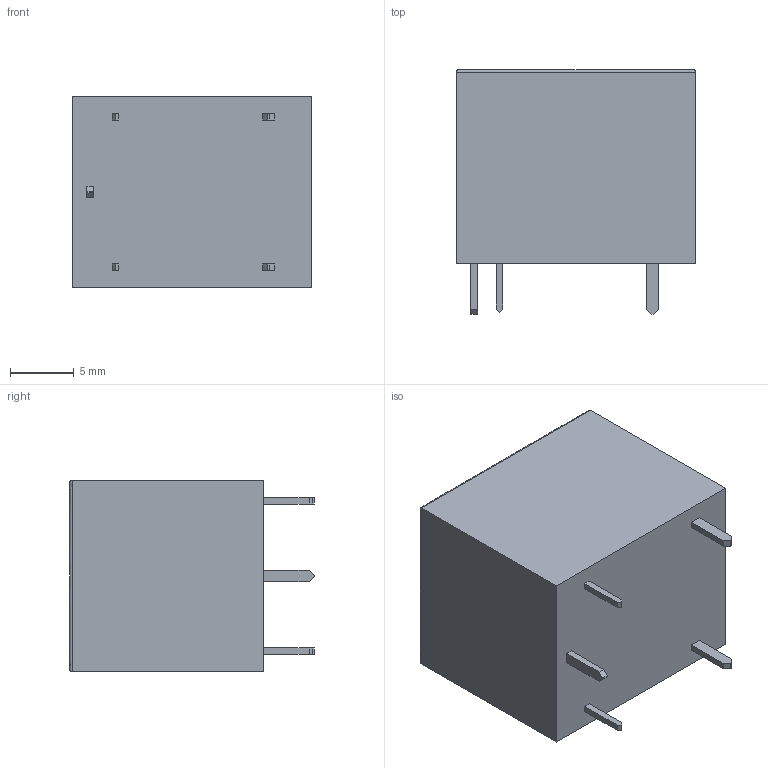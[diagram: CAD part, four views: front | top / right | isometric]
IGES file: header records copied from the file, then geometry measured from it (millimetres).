
Global section: file name: Filename.iges; native system: Open CASCADE 7.3; preprocessor: Open CASCADE IGES processor 7.3; date: 20200625.092254; units: millimetre
Bounding box: 18.8 x 19.2 x 15 mm (x, y, z)
Surface area: 1632.5 mm2 (no closed solid volume)
Topology: 0 solids, 0 shells, 43 faces, 208 edges, 208 vertices
Faces by surface type: plane 39, revolution 4
